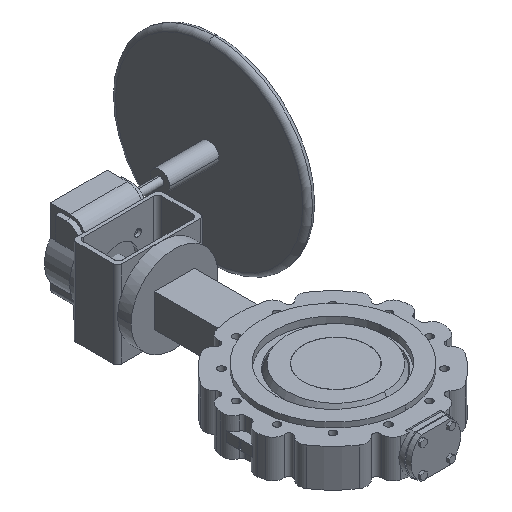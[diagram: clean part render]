
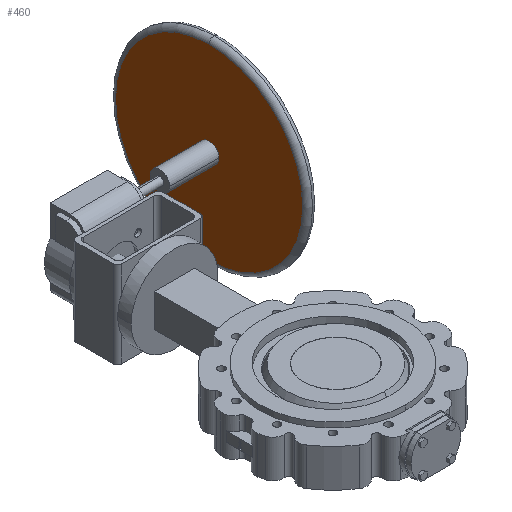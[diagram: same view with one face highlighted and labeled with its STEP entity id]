
A CAD part, isometric view. The second image highlights one B-rep face of the part: STEP entity #460.
In plain terms, the highlighted planar face has unit normal (-1, 0, 0).
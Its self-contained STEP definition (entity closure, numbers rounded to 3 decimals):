
#460 = ADVANCED_FACE( '', ( #1209, #1210 ), #1211, .T. );
#1209 = FACE_OUTER_BOUND( '', #1965, .T. );
#1210 = FACE_BOUND( '', #1966, .T. );
#1211 = PLANE( '', #1967 );
#1965 = EDGE_LOOP( '', ( #4791, #4792, #4793 ) );
#1966 = EDGE_LOOP( '', ( #4794, #4795 ) );
#1967 = AXIS2_PLACEMENT_3D( '', #4796, #4797, #4798 );
#4791 = ORIENTED_EDGE( '', *, *, #5600, .F. );
#4792 = ORIENTED_EDGE( '', *, *, #5599, .F. );
#4793 = ORIENTED_EDGE( '', *, *, #5596, .F. );
#4794 = ORIENTED_EDGE( '', *, *, #5612, .T. );
#4795 = ORIENTED_EDGE( '', *, *, #5753, .T. );
#4796 = CARTESIAN_POINT( '', ( 280., 725.25, 86. ) );
#4797 = DIRECTION( '', ( -1., 0., 0. ) );
#4798 = DIRECTION( '', ( 0., -1., 0. ) );
#5596 = EDGE_CURVE( '', #7012, #7014, #7015, .T. );
#5599 = EDGE_CURVE( '', #7014, #7018, #7019, .T. );
#5600 = EDGE_CURVE( '', #7018, #7012, #7020, .T. );
#5612 = EDGE_CURVE( '', #7037, #7041, #7043, .T. );
#5753 = EDGE_CURVE( '', #7041, #7037, #7277, .T. );
#7012 = VERTEX_POINT( '', #9644 );
#7014 = VERTEX_POINT( '', #9646 );
#7015 = CIRCLE( '', #9647, 237.5 );
#7018 = VERTEX_POINT( '', #9650 );
#7019 = CIRCLE( '', #9651, 237.5 );
#7020 = CIRCLE( '', #9652, 237.5 );
#7037 = VERTEX_POINT( '', #9671 );
#7041 = VERTEX_POINT( '', #9676 );
#7043 = CIRCLE( '', #9679, 25. );
#7277 = CIRCLE( '', #10048, 25. );
#9644 = CARTESIAN_POINT( '', ( 280., 594., 323.5 ) );
#9646 = CARTESIAN_POINT( '', ( 280., 594., -151.5 ) );
#9647 = AXIS2_PLACEMENT_3D( '', #11496, #11497, #11498 );
#9650 = CARTESIAN_POINT( '', ( 280., 831.5, 86. ) );
#9651 = AXIS2_PLACEMENT_3D( '', #11505, #11506, #11507 );
#9652 = AXIS2_PLACEMENT_3D( '', #11508, #11509, #11510 );
#9671 = CARTESIAN_POINT( '', ( 280., 619., 86. ) );
#9676 = CARTESIAN_POINT( '', ( 280., 569., 86. ) );
#9679 = AXIS2_PLACEMENT_3D( '', #11536, #11537, #11538 );
#10048 = AXIS2_PLACEMENT_3D( '', #11752, #11753, #11754 );
#11496 = CARTESIAN_POINT( '', ( 280., 594., 86. ) );
#11497 = DIRECTION( '', ( 1., 0., 0. ) );
#11498 = DIRECTION( '', ( 0., 1., 0. ) );
#11505 = CARTESIAN_POINT( '', ( 280., 594., 86. ) );
#11506 = DIRECTION( '', ( 1., 0., 0. ) );
#11507 = DIRECTION( '', ( 0., 1., 0. ) );
#11508 = CARTESIAN_POINT( '', ( 280., 594., 86. ) );
#11509 = DIRECTION( '', ( 1., 0., 0. ) );
#11510 = DIRECTION( '', ( 0., 1., 0. ) );
#11536 = CARTESIAN_POINT( '', ( 280., 594., 86. ) );
#11537 = DIRECTION( '', ( 1., 0., 0. ) );
#11538 = DIRECTION( '', ( 0., 1., 0. ) );
#11752 = CARTESIAN_POINT( '', ( 280., 594., 86. ) );
#11753 = DIRECTION( '', ( 1., 0., 0. ) );
#11754 = DIRECTION( '', ( 0., 1., 0. ) );
